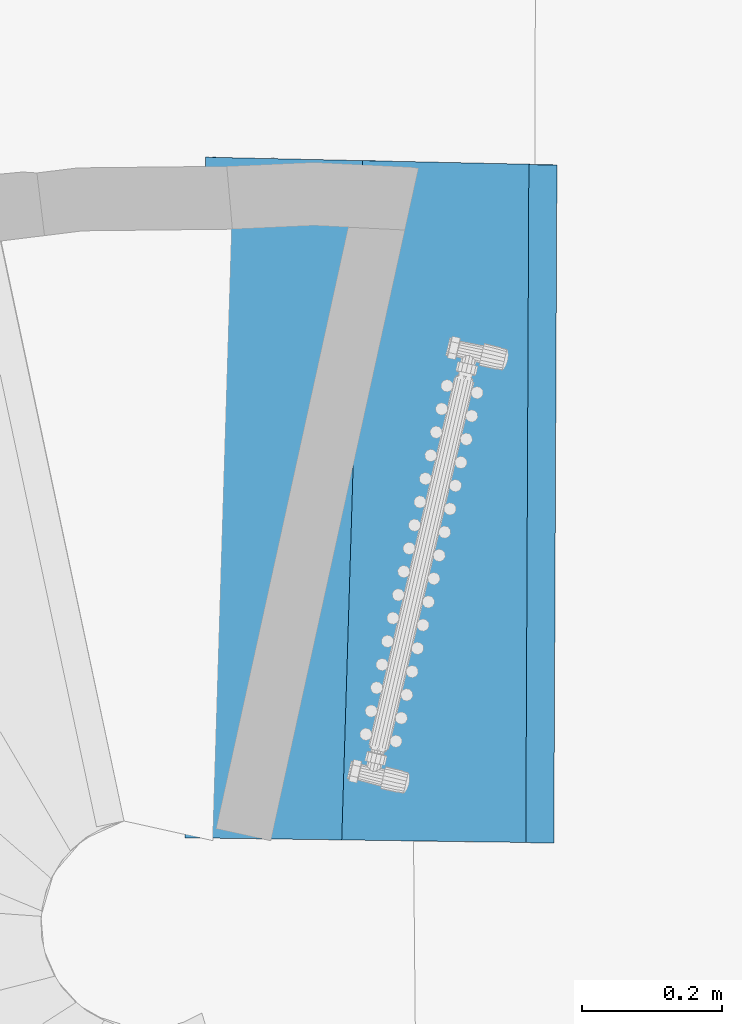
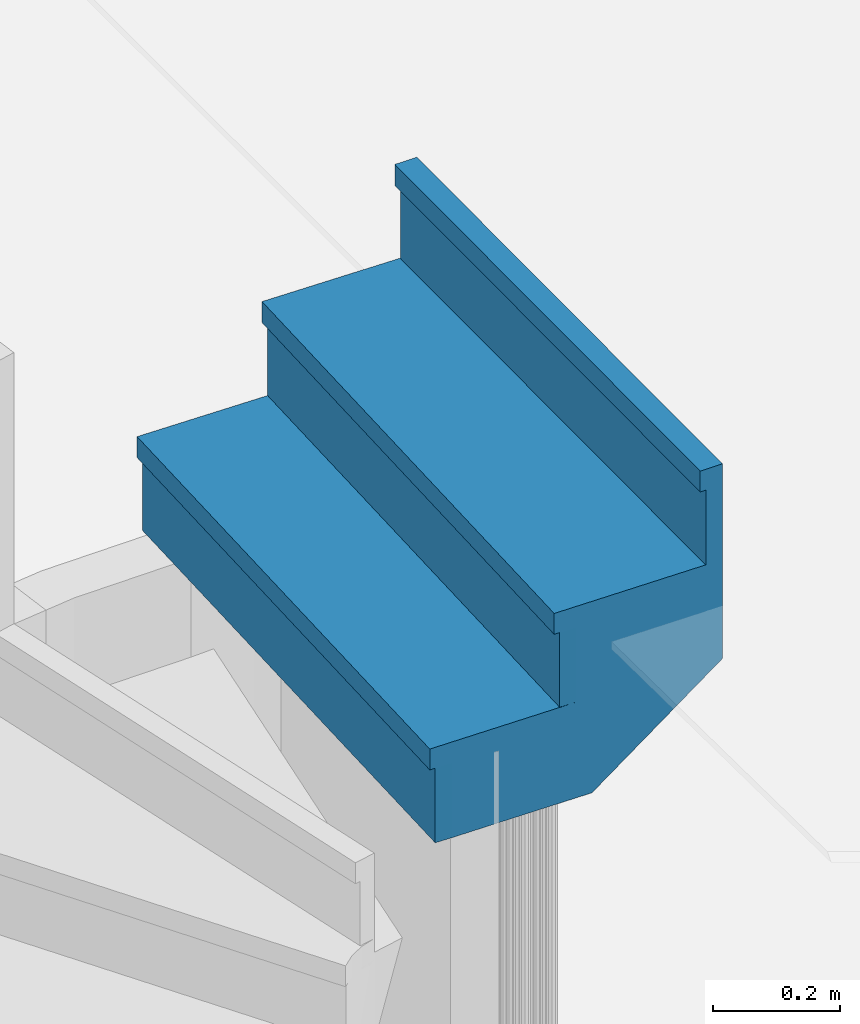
# One storey, part 66 of 72: 1 stair flight, 1 element without a shape of its own.
"""IFC2X3 building model written with IfcOpenShell, lengths in centimetres."""

from ifc_helpers import new_model, entity, si_unit, converted_unit, direction, frame, origin, origin_with_axes, place, context, subcontext, project, spatial, faceted_brep, material, material_list, element, aggregate, save


model = new_model("IFC2X3")

# Units and contexts
model_context = context("Model", 3, precision=0.0001, world=origin(), true_north=direction((0.225632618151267, 0.974212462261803, 0.0)))
body_context = subcontext(model_context, "Body", "Model", "MODEL_VIEW")
ifc_project = project(units=[si_unit("LENGTHUNIT", "METRE", prefix="CENTI"), si_unit("AREAUNIT", "SQUARE_METRE", prefix="CENTI"), si_unit("VOLUMEUNIT", "CUBIC_METRE", prefix="CENTI"), converted_unit("PLANEANGLEUNIT", "DEGREE", entity("IfcRatioMeasure", 0.0174532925), si_unit("PLANEANGLEUNIT", "RADIAN"), dimensions=[0, 0, 0, 0, 0, 0, 0])], contexts=[model_context])

# Site, building, storey
site_placement = place(None, origin_with_axes())
site = spatial("IfcSite", under=ifc_project, at=site_placement, Name="Default Site", CompositionType="ELEMENT")
building_placement = place(site_placement, origin_with_axes())
building = spatial("IfcBuilding", under=site, at=building_placement, Name="Default Building", CompositionType="ELEMENT")
storey_placement = place(building_placement, frame((0.0, 0.0, 853.910374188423), z_axis=(0.0, 0.0, 1.0), x_axis=(1.0, 0.0, 0.0)))
storey = spatial("IfcBuildingStorey", under=building, at=storey_placement, Name="Niveau 2", CompositionType="ELEMENT", Elevation=853.910374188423)

# Stair, stair flight
stair_placement = place(storey_placement, frame((-688.068784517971, -48.2921529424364, 183.089625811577), z_axis=(0.0, 0.0, 1.0), x_axis=(1.0, 0.0, 0.0)))
stair = element("IfcStair", 1, at=stair_placement, inside=storey, Name="Escalier 184577", ShapeType="NOTDEFINED")
ifc_material_1 = material(Name="Blanc")
ifc_material_2 = material(Name="Blanc apricena")
ifc_material_3 = material(Name="Brèche oniciata")
ifc_material_list = material_list([ifc_material_1, ifc_material_2, ifc_material_3])
stair_flight_placement = place(stair_placement, frame((1.47878055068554, 48.4774503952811, 14.3333320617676), z_axis=(0.0, 0.0, 1.0), x_axis=(0.999535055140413, -0.0304905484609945, 0.0)))
stair_flight = element("IfcStairFlight", 2, at=stair_flight_placement, material=ifc_material_list, Name="4294967255", context=body_context, shape_type="Brep", body=[
    faceted_brep([(-2.99998529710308, -2.77555756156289e-15, -14.3333435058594), (0.0, 0.0, -14.3333435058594), (6.72071998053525e-07, -96.9999981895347, -14.3333435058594), (-2.99998456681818, -97.0000000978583, -14.3333435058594), (0.0, 0.0, 0.0), (-2.99998529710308, -2.77555756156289e-15, 0.0), (-2.99998456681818, -97.0000000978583, 0.0), (6.72071998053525e-07, -96.9999981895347, 0.0), (-2.99998456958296, -97.0000000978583, -14.3333435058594), (-2.9999852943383, -2.75482113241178e-15, 0.0), (-2.99998529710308, -1.59272580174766e-10, -14.3333435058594), (-8.45581235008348e-21, 1.59269804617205e-10, 0.0), (-5.544810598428e-08, -4.15872294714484e-16, -14.3333435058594), (7.27520104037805e-07, -96.9999981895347, 0.0), (6.72071996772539e-07, -96.9999981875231, -14.3333435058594), (-2.99998456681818, -97.00000009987, 0.0)], [[[0, 1, 2]], [[2, 3, 0]], [[4, 5, 6]], [[6, 7, 4]], [[5, 0, 8]], [[3, 6, 9]], [[4, 1, 10]], [[0, 5, 11]], [[7, 2, 12]], [[1, 4, 13]], [[6, 3, 14]], [[2, 7, 15]]]),
    faceted_brep([(19.3604326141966, 0.194040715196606, 3.99999618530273), (22.3604179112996, 0.194040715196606, 3.99999618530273), (22.36043290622, -96.6265802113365, 3.99999618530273), (19.3604476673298, -96.6265821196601, 3.99999618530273), (22.3604179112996, 0.194040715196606, 18.3333396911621), (19.3604326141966, 0.194040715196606, 18.3333396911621), (19.3604476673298, -96.6265821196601, 18.3333396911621), (22.36043290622, -96.6265802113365, 18.3333396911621), (19.3604477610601, -96.6265821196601, 3.99999618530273), (19.3604325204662, 0.194040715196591, 18.3333396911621), (19.3604326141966, 0.194040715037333, 3.99999618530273), (22.3604179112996, 0.194040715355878, 18.3333396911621), (22.3604177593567, 0.194040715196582, 3.99999618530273), (22.3604330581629, -96.6265802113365, 18.3333396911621), (22.36043290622, -96.6265802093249, 3.99999618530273), (19.3604476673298, -96.6265821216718, 18.3333396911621)], [[[0, 1, 2]], [[2, 3, 0]], [[4, 5, 6]], [[6, 7, 4]], [[5, 0, 8]], [[3, 6, 9]], [[4, 1, 10]], [[0, 5, 11]], [[7, 2, 12]], [[1, 4, 13]], [[6, 3, 14]], [[2, 7, 15]]]),
    faceted_brep([(43.0802405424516, 0.322054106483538, 22.3333358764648), (46.0792355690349, 0.399869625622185, 22.3333358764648), (48.5854592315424, -96.1886209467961, 22.3333358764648), (45.586464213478, -96.2664367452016, 22.3333358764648), (46.0792355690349, 0.399869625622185, 36.6666793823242), (43.0802405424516, 0.322054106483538, 36.6666793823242), (45.586464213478, -96.2664367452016, 36.6666793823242), (48.5854592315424, -96.1886209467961, 36.6666793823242), (45.5864642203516, -96.2664367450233, 22.3333358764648), (43.0802405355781, 0.322054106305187, 36.6666793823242), (43.0802405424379, 0.322054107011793, 22.3333358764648), (46.0792355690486, 0.39986962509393, 36.6666793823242), (46.0792355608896, 0.399869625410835, 22.3333358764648), (48.5854592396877, -96.1886209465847, 36.6666793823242), (48.5854592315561, -96.1886209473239, 22.3333358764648), (45.5864642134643, -96.2664367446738, 36.6666793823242)], [[[0, 1, 2]], [[2, 3, 0]], [[4, 5, 6]], [[6, 7, 4]], [[5, 0, 8]], [[3, 6, 9]], [[4, 1, 10]], [[0, 5, 11]], [[7, 2, 12]], [[1, 4, 13]], [[6, 3, 14]], [[2, 7, 15]]]),
    faceted_brep([(6.72071998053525e-07, -96.9999981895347, -14.3333435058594), (6.72071998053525e-07, -96.9999981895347, 0.0), (-5.544810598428e-08, -4.15872294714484e-16, 0.0), (0.0, 0.0, 0.0), (0.0, 0.0, -14.3333435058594), (7.27520104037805e-07, -96.9999981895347, -14.3333435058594), (22.36043290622, -96.6265802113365, 0.0), (22.36043290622, -96.6265802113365, 18.3333396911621), (22.3604177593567, 0.194040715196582, 18.3333396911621), (22.3604179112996, 0.194040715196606, 18.3333396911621), (22.3604179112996, 0.194040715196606, 0.0), (22.3604330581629, -96.6265802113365, 0.0), (48.5854592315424, -96.1886209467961, 18.3333396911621), (46.0792355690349, 0.399869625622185, 18.3333396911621), (48.5854592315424, -96.1886209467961, 3.35969924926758), (46.0792355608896, 0.399869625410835, 3.35969924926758), (46.0792355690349, 0.399869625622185, 3.35969924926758), (48.5854592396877, -96.1886209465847, 18.3333396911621), (23.84429866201, 0.206917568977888, -14.3333435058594), (25.1411764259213, -96.5801397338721, -14.3333435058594), (22.3604329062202, -96.6265802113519, -2.11911370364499e-18), (6.72074335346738e-07, -96.9999981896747, -14.3333435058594), (25.1411764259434, -96.5801397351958, -14.3333435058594), (25.1411764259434, -96.5801397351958, 18.3333396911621), (22.3604329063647, -96.6265802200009, 0.0), (25.1411764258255, -96.5801397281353, 18.3333396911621), (25.1411764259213, -96.5801397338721, 18.3333396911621), (48.5854592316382, -96.1886209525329, 3.35969924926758), (23.8442986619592, 0.206917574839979, -14.3333435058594), (-1.26574485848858e-10, 1.45859006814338e-08, -6.59985482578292e-17), (22.3604179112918, 0.194040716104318, -4.10723533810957e-18), (22.360417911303, 0.194040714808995, 0.0), (23.84429866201, 0.206917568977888, 18.3333396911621), (22.360417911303, 0.194040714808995, 8.43276325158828e-29), (22.360417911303, 0.194040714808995, 18.3333396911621), (23.8442986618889, 0.206917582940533, -14.3333435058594), (23.8442986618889, 0.206917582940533, 18.3333396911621), (46.079235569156, 0.399869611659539, 18.3333396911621), (46.079235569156, 0.399869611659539, 3.35969924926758), (48.5854592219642, -96.1886209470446, 3.35969926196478), (25.1411762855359, -96.5801397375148, -14.3333433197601), (25.141176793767, -96.5801397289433, -14.3333439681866), (23.8442990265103, 0.206917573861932, -14.3333439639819)], [[[0, 1, 2]], [[3, 4, 5]], [[6, 7, 8]], [[9, 10, 11]], [[3, 1, 6]], [[6, 10, 3]], [[7, 12, 13]], [[13, 9, 7]], [[12, 14, 15]], [[16, 13, 17]], [[4, 18, 19]], [[19, 0, 4]], [[19, 20, 21]], [[6, 22, 23]], [[6, 23, 7]], [[1, 0, 24]], [[14, 12, 25]], [[26, 19, 27]], [[3, 28, 4]], [[18, 29, 30]], [[18, 31, 32]], [[32, 33, 34]], [[16, 35, 36]], [[32, 37, 38]], [[16, 39, 40]], [[16, 41, 42]]]),
    faceted_brep([(-3.99998697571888, -0.0347110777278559, 3.99999618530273), (-3.99996161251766, -97.066796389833, 3.99999618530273), (22.36043290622, -96.6265802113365, 3.99999618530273), (22.3604179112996, 0.194040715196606, 3.99999618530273), (22.36043290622, -96.6265802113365, 0.0), (-3.99996161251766, -97.066796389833, 0.0), (-3.99998697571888, -0.0347110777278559, 0.0), (22.3604179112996, 0.194040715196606, 0.0), (-3.99998708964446, -0.0347110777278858, 3.99999618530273), (-3.99996149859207, -97.066796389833, 0.0), (-3.99996161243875, -97.066796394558, 3.99999618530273), (22.3604329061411, -96.6265802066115, 0.0), (22.3604330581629, -96.6265802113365, 3.99999618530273), (22.3604177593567, 0.194040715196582, 0.0), (22.3604179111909, 0.194040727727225, 3.99999618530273), (-3.99998697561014, -0.0347110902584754, 0.0)], [[[0, 1, 2]], [[2, 3, 0]], [[4, 5, 6]], [[6, 7, 4]], [[5, 1, 8]], [[0, 6, 9]], [[4, 2, 10]], [[1, 5, 11]], [[7, 3, 12]], [[2, 4, 13]], [[6, 0, 14]], [[3, 7, 15]]]),
    faceted_brep([(18.3604229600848, -96.6933798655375, 22.3333358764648), (48.5854592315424, -96.1886209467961, 22.3333358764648), (46.0792355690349, 0.399869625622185, 22.3333358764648), (18.3604309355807, 0.159329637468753, 22.3333358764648), (48.5854592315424, -96.1886209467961, 18.3333396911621), (18.3604229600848, -96.6933798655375, 18.3333396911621), (18.3604309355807, 0.159329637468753, 18.3333396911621), (46.0792355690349, 0.399869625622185, 18.3333396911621), (18.3604310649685, 0.159329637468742, 22.3333358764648), (18.3604228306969, -96.6933798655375, 18.3333396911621), (18.3604229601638, -96.6933798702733, 22.3333358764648), (48.5854592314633, -96.1886209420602, 18.3333396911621), (48.5854592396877, -96.1886209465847, 22.3333358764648), (46.0792355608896, 0.399869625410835, 18.3333396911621), (46.0792355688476, 0.399869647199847, 22.3333358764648), (18.3604309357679, 0.15932961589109, 18.3333396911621)], [[[0, 1, 2]], [[2, 3, 0]], [[4, 5, 6]], [[6, 7, 4]], [[5, 0, 8]], [[3, 6, 9]], [[4, 1, 10]], [[0, 5, 11]], [[7, 2, 12]], [[1, 4, 13]], [[6, 3, 14]], [[2, 7, 15]]]),
    faceted_brep([(44.5867674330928, -96.2923763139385, 40.666675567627), (48.5854592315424, -96.1886209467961, 40.666675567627), (46.0792355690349, 0.399869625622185, 40.666675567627), (42.0805914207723, 0.296116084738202, 40.666675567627), (48.5854592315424, -96.1886209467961, 36.6666793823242), (44.5867674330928, -96.2923763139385, 36.6666793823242), (42.0805914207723, 0.296116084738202, 36.6666793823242), (46.0792355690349, 0.399869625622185, 36.6666793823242), (42.0805914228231, 0.296116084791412, 40.666675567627), (44.586767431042, -96.2923763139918, 36.6666793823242), (44.5867674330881, -96.2923763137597, 40.666675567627), (48.585459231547, -96.1886209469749, 36.6666793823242), (48.5854592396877, -96.1886209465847, 40.666675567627), (46.0792355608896, 0.399869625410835, 36.6666793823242), (46.0792355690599, 0.399869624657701, 40.666675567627), (42.0805914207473, 0.296116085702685, 36.6666793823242)], [[[0, 1, 2]], [[2, 3, 0]], [[4, 5, 6]], [[6, 7, 4]], [[5, 0, 8]], [[3, 6, 9]], [[4, 1, 10]], [[0, 5, 11]], [[7, 2, 12]], [[1, 4, 13]], [[6, 3, 14]], [[2, 7, 15]]]),
])
aggregate(stair, [stair_flight])

save(model, "model.ifc")
